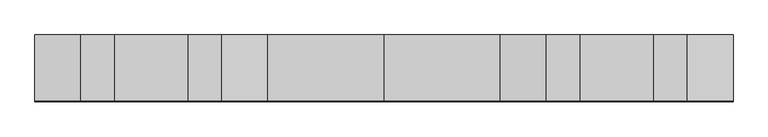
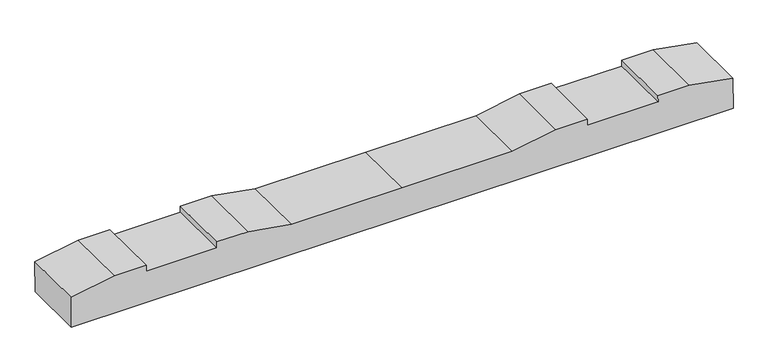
"""IFC4 building model written with IfcOpenShell, lengths in millimetres: proxy geometry, 轨枕-立面角度 : 轨枕-立面角度."""

from ifc_helpers import new_model, si_unit, frame, origin, place, context, project, spatial, polyline, outline, extrude, source, transform, mapped, element, save


def generic_models_043a35da(model_context):
    return source(origin(), model_context, "Body", "SweptSolid", [
        extrude(outline(polyline([(0.0, 0.0), (0.0, -100.0206889), (-137.8834664, -124.5), (-237.8834664, -124.5), (-237.8834664, -104.5), (-461.8834664, -104.5), (-461.8834664, -124.5), (-561.8834664, -124.5), (-699.8834664, -100.0), (-1049.8834664, -100.0), (-1399.8834664, -100.0), (-1537.8834664, -124.5), (-1637.8834664, -124.5), (-1637.8834664, -104.5), (-1861.8834664, -104.5), (-1861.8834664, -124.5), (-1961.8834664, -124.5), (-2099.7669328, -100.0206889), (-2099.7669328, 0.0), (0.0, 0.0)])), frame((-1049.8834664, 99.3331078, -105.1341224), z_axis=(0.0, -0.9999797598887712, 0.00636237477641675), x_axis=(-1.0, 0.0, 0.0)), (0.0, 0.0, 1.0), 200.0),
    ])


if __name__ == "__main__":
    model = new_model("IFC4")
    model_context = context("Model", 3, world=origin())
    ifc_project = project(units=[si_unit("LENGTHUNIT", "METRE", prefix="MILLI")], contexts=[model_context])
    site = spatial("IfcSite", under=ifc_project)
    building = spatial("IfcBuilding", under=site)
    placement = place(None, origin())
    generic_models_shape = generic_models_043a35da(model_context)
    element("IfcBuildingElementProxy", 1, Name="轨枕-立面角度 : 轨枕-立面角度", ObjectType="轨枕-立面角度 : 轨枕-立面角度", at=placement, inside=building, context=model_context, shape_type="MappedRepresentation", body=[
        mapped(generic_models_shape, transform((0.0, 0.0, 0.0), x_axis=(1.0, 0.0, 0.0), y_axis=(0.0, 1.0, 0.0), z_axis=(0.0, 0.0, 1.0))),
    ])
    save(model, "model.ifc")
